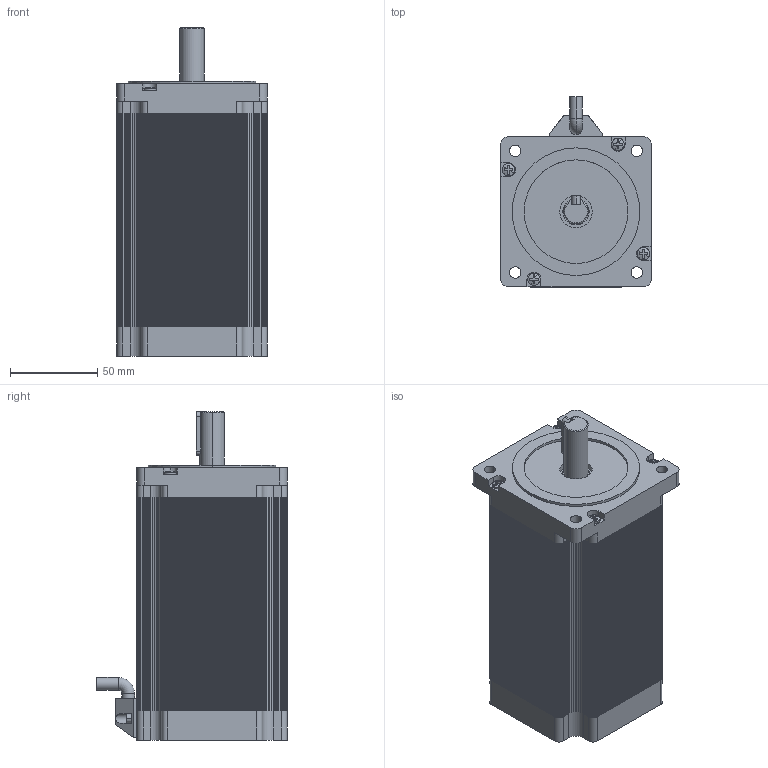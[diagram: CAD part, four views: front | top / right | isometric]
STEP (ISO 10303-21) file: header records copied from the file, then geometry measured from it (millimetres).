
FILE_DESCRIPTION (( 'STEP AP203' ), '1' );
FILE_NAME ('SM3404.STEP', '2020-05-23T03:33:57', ( 'Windows' ), ( 'Microsoft' ), 'SwSTEP 2.0', 'SolidWorks 2016', '' );
FILE_SCHEMA (( 'CONFIG_CONTROL_DESIGN' ));
Products named in the file (1): SM3404
Bounding box: 86 x 109.03 x 188 mm (x, y, z)
Volume: 1050950.1 mm3; surface area: 3317148.5 mm2
Topology: 248 solids, 248 shells, 6611 faces, 18273 edges, 12172 vertices
Faces by surface type: plane 3558, cylinder 3030, cone 13, sphere 8, torus 2
Entity records: 211925 total; most frequent: DIRECTION 37571, CARTESIAN_POINT 37199, ORIENTED_EDGE 36530, EDGE_CURVE 18265, AXIS2_PLACEMENT_3D 12724, VERTEX_POINT 12172, LINE 12123, VECTOR 12123
